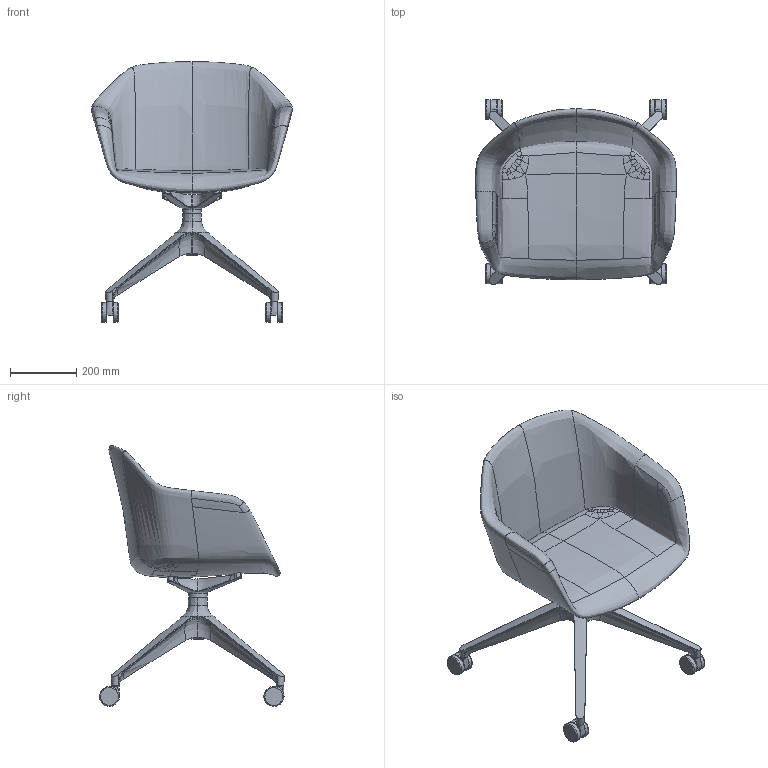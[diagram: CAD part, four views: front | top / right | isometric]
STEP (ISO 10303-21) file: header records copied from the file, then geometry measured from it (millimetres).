
FILE_DESCRIPTION(/* description */ (''),/* implementation_level */ '2;1');
FILE_NAME(/* name */ 'RIVA RI-02,F02-BL',/* time_stamp */ '2024-08-29T23:42:23+02:00',/* author */ (''),/* organization */ (''),/* preprocessor_version */ 'ST-DEVELOPER v16.5',/* originating_system */ 'Rhino 7.37',/* authorisation */ '');
FILE_SCHEMA (('CONFIG_CONTROL_DESIGN'));
Length unit declared in the file: millimetre
Products named in the file (1): Document
Bounding box: 604.45 x 556.94 x 785.22 mm (x, y, z)
Volume: 151986.5 mm3; surface area: 1426217.7 mm2
Topology: 4 solids, 36 shells, 369 faces, 935 edges, 597 vertices
Faces by surface type: bspline 266, plane 70, cylinder 33
Full cylindrical faces by diameter (mm): 10 x4, 46 x1, 60 x8
Entity records: 37418 total; most frequent: CARTESIAN_POINT 31744, ORIENTED_EDGE 1724, EDGE_CURVE 925, B_SPLINE_CURVE_WITH_KNOTS 649, VERTEX_POINT 591, ADVANCED_FACE 369, FACE_OUTER_BOUND 369, EDGE_LOOP 369
